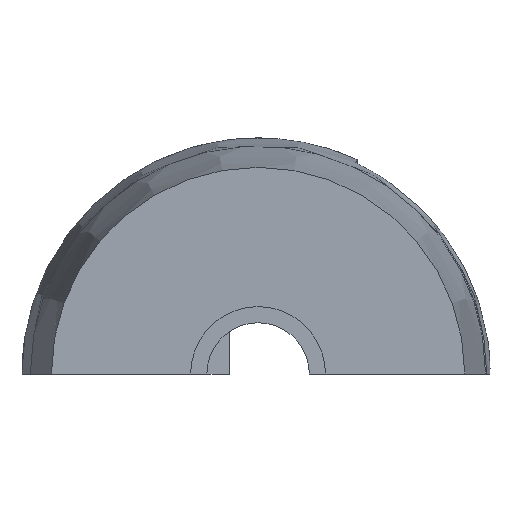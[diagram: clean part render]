
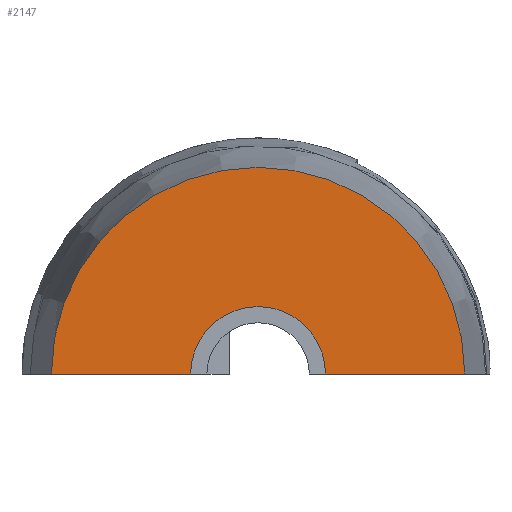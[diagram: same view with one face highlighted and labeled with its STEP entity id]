
A CAD part, front view. The second image highlights one B-rep face of the part: STEP entity #2147.
In plain terms, the highlighted planar face has unit normal (0, -1, 0).
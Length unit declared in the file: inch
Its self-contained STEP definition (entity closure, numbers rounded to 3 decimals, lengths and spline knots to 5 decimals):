
#856=CARTESIAN_POINT('',(0.79428,-3.235,-0.415));
#857=VERTEX_POINT('',#856);
#864=CARTESIAN_POINT('',(0.27821,-3.235,-0.415));
#865=VERTEX_POINT('',#864);
#866=CARTESIAN_POINT('',(0.79428,-3.235,-0.415));
#867=DIRECTION('',(-1.0,0.0,0.0));
#868=VECTOR('',#867,0.51607);
#869=LINE('',#866,#868);
#870=EDGE_CURVE('',#857,#865,#869,.T.);
#2115=CARTESIAN_POINT('',(0.02821,-3.235,-0.01956));
#2116=DIRECTION('',(0.0,1.0,0.0));
#2117=DIRECTION('',(0.0,0.0,1.0));
#2118=AXIS2_PLACEMENT_3D('',#2115,#2116,#2117);
#2119=PLANE('',#2118);
#2120=CARTESIAN_POINT('',(-0.22179,-3.235,-0.415));
#2121=VERTEX_POINT('',#2120);
#2122=CARTESIAN_POINT('',(0.02821,-3.235,-0.415));
#2123=DIRECTION('',(0.0,1.0,0.0));
#2124=DIRECTION('',(-1.0,0.0,0.0));
#2125=AXIS2_PLACEMENT_3D('',#2122,#2123,#2124);
#2126=CIRCLE('',#2125,0.25);
#2127=EDGE_CURVE('',#2121,#865,#2126,.T.);
#2128=ORIENTED_EDGE('',*,*,#2127,.T.);
#2129=ORIENTED_EDGE('',*,*,#870,.F.);
#2130=CARTESIAN_POINT('',(-0.73787,-3.235,-0.415));
#2131=VERTEX_POINT('',#2130);
#2132=CARTESIAN_POINT('',(0.02821,-3.235,-0.415));
#2133=DIRECTION('',(0.0,1.0,0.0));
#2134=DIRECTION('',(1.0,0.0,0.0));
#2135=AXIS2_PLACEMENT_3D('',#2132,#2133,#2134);
#2136=CIRCLE('',#2135,0.76607);
#2137=EDGE_CURVE('',#2131,#857,#2136,.T.);
#2138=ORIENTED_EDGE('',*,*,#2137,.F.);
#2139=CARTESIAN_POINT('',(-0.22179,-3.235,-0.415));
#2140=DIRECTION('',(-1.0,0.0,0.0));
#2141=VECTOR('',#2140,0.51607);
#2142=LINE('',#2139,#2141);
#2143=EDGE_CURVE('',#2121,#2131,#2142,.T.);
#2144=ORIENTED_EDGE('',*,*,#2143,.F.);
#2145=EDGE_LOOP('',(#2128,#2129,#2138,#2144));
#2146=FACE_OUTER_BOUND('',#2145,.T.);
#2147=ADVANCED_FACE('',(#2146),#2119,.F.);
